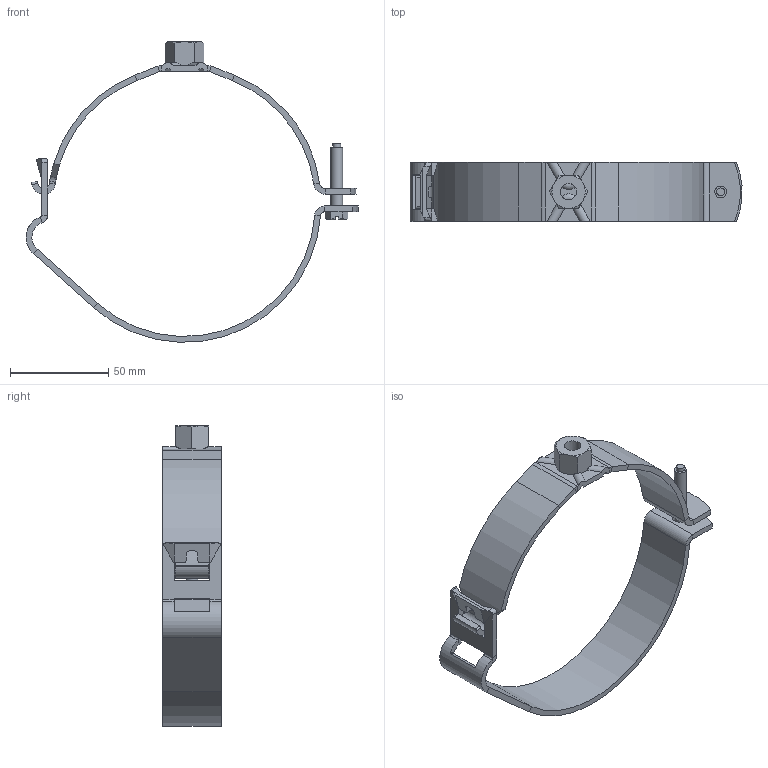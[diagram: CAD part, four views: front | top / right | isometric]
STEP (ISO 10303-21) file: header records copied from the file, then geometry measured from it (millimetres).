
FILE_DESCRIPTION(/* description */ (''),/* implementation_level */ '2;1');
FILE_NAME(/* name */ 'C:\Planerdaten\Export PLA\368.843.00.2\stp\368843.stp',/* time_stamp */ '2020-02-28T04:58:46-08:00',/* author */ ('JANAN'),/* organization */ (''),/* preprocessor_version */ 'ST-DEVELOPER v16.13',/* originating_system */ 'Autodesk Inventor 2018',/* authorisation */ '');
FILE_SCHEMA (('AUTOMOTIVE_DESIGN { 1 0 10303 214 3 1 1 }'));
Length unit declared in the file: millimetre
Products named in the file (4): Rohrschelle d125/133 M10 verstellbar; 38098964_CPP_000_00___Rohrschelle UnT St d125 verz; 38100595_CPP_000_00___Rohrschelle ObT St d125 M10 verz; 30054957_CPP_000_01___Sechskantschraube M6x35-4.8 verzinkt
Assembly tree (3 placements, depth 2):
  Rohrschelle d125/133 M10 verstellbar
    38098964_CPP_000_00___Rohrschelle UnT St d125 verz
    38100595_CPP_000_00___Rohrschelle ObT St d125 M10 verz
    30054957_CPP_000_01___Sechskantschraube M6x35-4.8 verzinkt
Bounding box: 169.18 x 30 x 153.13 mm (x, y, z)
Volume: 46087 mm3; surface area: 34251.8 mm2
Topology: 3 solids, 3 shells, 214 faces, 531 edges, 322 vertices
Faces by surface type: plane 134, cylinder 48, cone 22, bspline 8, torus 2
Full cylindrical faces by diameter (mm): 4 x1, 4.917 x1, 6 x1, 8.376 x1
Entity records: 6775 total; most frequent: CARTESIAN_POINT 1645, ORIENTED_EDGE 1052, DIRECTION 1043, EDGE_CURVE 526, AXIS2_PLACEMENT_3D 362, VERTEX_POINT 321, LINE 319, VECTOR 319
